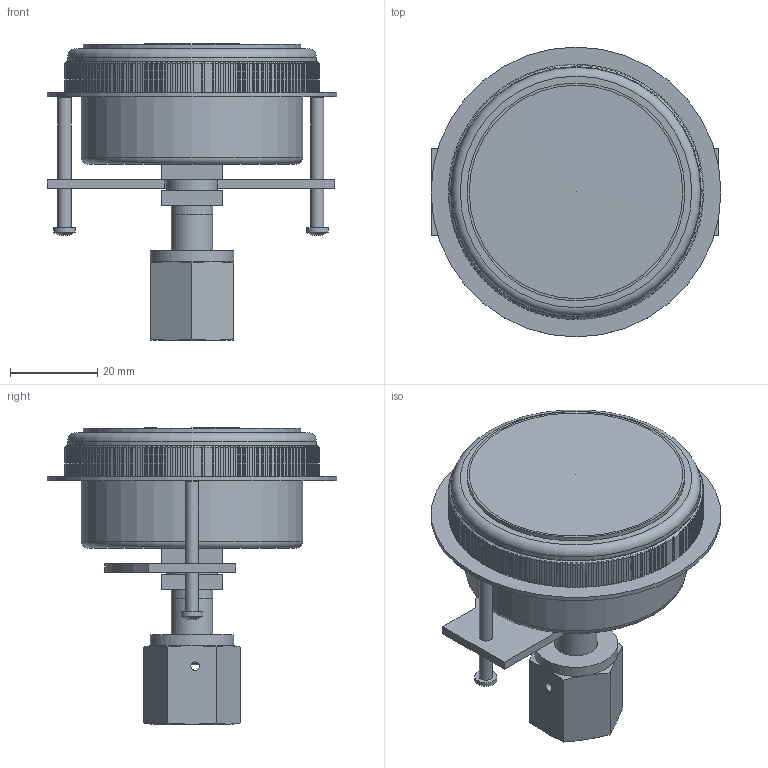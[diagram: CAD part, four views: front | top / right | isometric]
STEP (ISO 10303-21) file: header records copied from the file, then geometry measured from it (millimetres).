
FILE_DESCRIPTION(/* description */ (''),/* implementation_level */ '2;1');
FILE_NAME(/* name */ 'P800_50PI_CENTER BACK, FLUSH MOUNT_SWIVEL(F).stp',/* time_stamp */ '2025-03-27T09:13:28+09:00',/* author */ ('wise-209'),/* organization */ (''),/* preprocessor_version */ 'ST-DEVELOPER v19.2',/* originating_system */ 'Autodesk Inventor 2024',/* authorisation */ '');
FILE_SCHEMA (('AUTOMOTIVE_DESIGN { 1 0 10303 214 3 1 1 }'));
Length unit declared in the file: millimetre
Products named in the file (8): P810_50mm_I Type_SF; COVER; SHANK; RING; BRACKET; SCREW; SHANK_1; 14NUT
Assembly tree (8 placements, depth 2):
  P810_50mm_I Type_SF
    COVER
    SHANK
    RING
    BRACKET
    SCREW  x2
    SHANK_1
    14NUT
Bounding box: 66.5 x 66.5 x 67.98 mm (x, y, z)
Volume: 73819.4 mm3; surface area: 26616.7 mm2
Topology: 9 solids, 9 shells, 714 faces, 2036 edges, 1351 vertices
Faces by surface type: plane 514, cylinder 170, cone 25, torus 3, sphere 2
Full cylindrical faces by diameter (mm): 2 x2, 3 x4, 4.5 x1, 5 x2, 7.8 x1, 9.53 x2, 9.9 x1, 11.3 x1, 11.5 x1, 12.7 x1, 12.8 x1, 15 x1, 19.2 x1, 50 x1, 50.8 x1, 51 x1, 57.1 x1, 66.5 x1
Entity records: 22779 total; most frequent: CARTESIAN_POINT 4429, ORIENTED_EDGE 3974, DIRECTION 3623, EDGE_CURVE 1987, LINE 1423, VECTOR 1423, VERTEX_POINT 1319, AXIS2_PLACEMENT_3D 1100
